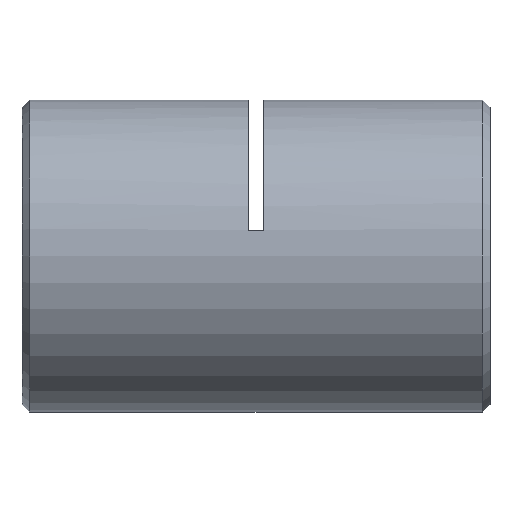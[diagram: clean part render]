
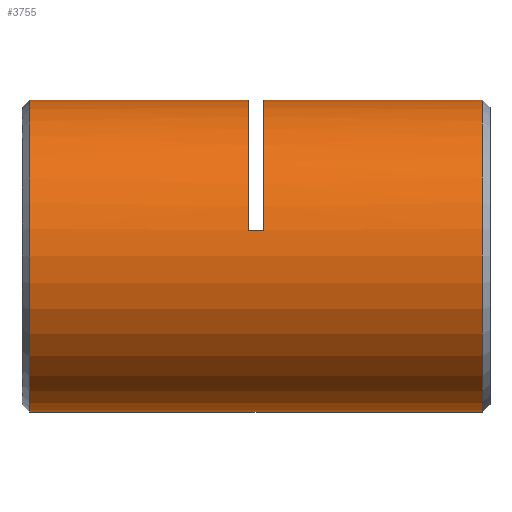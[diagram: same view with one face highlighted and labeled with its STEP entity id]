
A CAD part, left-side view. The second image highlights one B-rep face of the part: STEP entity #3755.
In plain terms, the highlighted cylindrical face has radius 10 mm (diameter 20 mm), a partial arc.
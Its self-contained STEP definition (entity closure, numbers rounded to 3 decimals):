
#44 = CARTESIAN_POINT ( 'NONE',  ( 0., 0.75, -10. ) ) ;
#74 = ORIENTED_EDGE ( 'NONE', *, *, #5062, .T. ) ;
#80 = DIRECTION ( 'NONE',  ( 0., 1., 0. ) ) ;
#380 = EDGE_CURVE ( 'NONE', #3187, #1616, #3273, .T. ) ;
#385 = FACE_OUTER_BOUND ( 'NONE', #4592, .T. ) ;
#482 = ORIENTED_EDGE ( 'NONE', *, *, #5136, .T. ) ;
#484 = VERTEX_POINT ( 'NONE', #3466 ) ;
#775 = DIRECTION ( 'NONE',  ( 0., -1., 0. ) ) ;
#780 = CARTESIAN_POINT ( 'NONE',  ( -9.86, 15.25, 1.667 ) ) ;
#809 = VECTOR ( 'NONE', #1164, 1000. ) ;
#882 = AXIS2_PLACEMENT_3D ( 'NONE', #2477, #775, #1184 ) ;
#886 = VERTEX_POINT ( 'NONE', #3589 ) ;
#1079 = CARTESIAN_POINT ( 'NONE',  ( 0., 0., 0. ) ) ;
#1160 = CIRCLE ( 'NONE', #1992, 10. ) ;
#1164 = DIRECTION ( 'NONE',  ( 0., 1., 0. ) ) ;
#1184 = DIRECTION ( 'NONE',  ( 0., 0., -1. ) ) ;
#1419 = AXIS2_PLACEMENT_3D ( 'NONE', #1908, #2829, #3672 ) ;
#1527 = CARTESIAN_POINT ( 'NONE',  ( 0., 15.75, 0. ) ) ;
#1616 = VERTEX_POINT ( 'NONE', #3454 ) ;
#1628 = VECTOR ( 'NONE', #80, 1000. ) ;
#1816 = ORIENTED_EDGE ( 'NONE', *, *, #380, .T. ) ;
#1875 = CARTESIAN_POINT ( 'NONE',  ( 0., 29.75, -10. ) ) ;
#1908 = CARTESIAN_POINT ( 'NONE',  ( 0., 14.75, 0. ) ) ;
#1978 = DIRECTION ( 'NONE',  ( 0., 0., 1. ) ) ;
#1992 = AXIS2_PLACEMENT_3D ( 'NONE', #4118, #3647, #3628 ) ;
#2049 = LINE ( 'NONE', #3722, #5571 ) ;
#2177 = VERTEX_POINT ( 'NONE', #44 ) ;
#2320 = CIRCLE ( 'NONE', #1419, 10. ) ;
#2340 = DIRECTION ( 'NONE',  ( 0., 1., 0. ) ) ;
#2469 = DIRECTION ( 'NONE',  ( 0., 1., 0. ) ) ;
#2477 = CARTESIAN_POINT ( 'NONE',  ( 0., 29.75, 0. ) ) ;
#2598 = VERTEX_POINT ( 'NONE', #1875 ) ;
#2688 = CARTESIAN_POINT ( 'NONE',  ( 0., 0., 10. ) ) ;
#2829 = DIRECTION ( 'NONE',  ( 0., 1., 0. ) ) ;
#2877 = DIRECTION ( 'NONE',  ( 0., 1., 0. ) ) ;
#3055 = VERTEX_POINT ( 'NONE', #4188 ) ;
#3161 = LINE ( 'NONE', #3861, #809 ) ;
#3185 = VERTEX_POINT ( 'NONE', #5789 ) ;
#3187 = VERTEX_POINT ( 'NONE', #4838 ) ;
#3273 = CIRCLE ( 'NONE', #4523, 10. ) ;
#3389 = CIRCLE ( 'NONE', #882, 10. ) ;
#3454 = CARTESIAN_POINT ( 'NONE',  ( 0., 15.75, 10. ) ) ;
#3466 = CARTESIAN_POINT ( 'NONE',  ( 0., 0.75, 10. ) ) ;
#3479 = ORIENTED_EDGE ( 'NONE', *, *, #5837, .T. ) ;
#3488 = ORIENTED_EDGE ( 'NONE', *, *, #4653, .F. ) ;
#3589 = CARTESIAN_POINT ( 'NONE',  ( 0., 14.75, 10. ) ) ;
#3628 = DIRECTION ( 'NONE',  ( 0., 0., 1. ) ) ;
#3647 = DIRECTION ( 'NONE',  ( 0., 1., 0. ) ) ;
#3671 = CYLINDRICAL_SURFACE ( 'NONE', #3770, 10. ) ;
#3672 = DIRECTION ( 'NONE',  ( 0., 0., 1. ) ) ;
#3718 = EDGE_CURVE ( 'NONE', #1616, #3185, #2049, .T. ) ;
#3722 = CARTESIAN_POINT ( 'NONE',  ( 0., 0., 10. ) ) ;
#3755 = ADVANCED_FACE ( 'NONE', ( #385 ), #3671, .T. ) ;
#3770 = AXIS2_PLACEMENT_3D ( 'NONE', #1079, #2469, #1978 ) ;
#3861 = CARTESIAN_POINT ( 'NONE',  ( 0., 0., -10. ) ) ;
#3918 = DIRECTION ( 'NONE',  ( 0., 1., 0. ) ) ;
#4118 = CARTESIAN_POINT ( 'NONE',  ( 0., 0.75, 0. ) ) ;
#4188 = CARTESIAN_POINT ( 'NONE',  ( -9.86, 14.75, 1.667 ) ) ;
#4225 = VECTOR ( 'NONE', #3918, 1000. ) ;
#4343 = DIRECTION ( 'NONE',  ( 0., 0., 1. ) ) ;
#4365 = ORIENTED_EDGE ( 'NONE', *, *, #3718, .T. ) ;
#4395 = LINE ( 'NONE', #2688, #1628 ) ;
#4523 = AXIS2_PLACEMENT_3D ( 'NONE', #1527, #2877, #4343 ) ;
#4592 = EDGE_LOOP ( 'NONE', ( #5808, #74, #482, #3488, #3479, #1816, #4365, #5164 ) ) ;
#4645 = LINE ( 'NONE', #780, #4225 ) ;
#4653 = EDGE_CURVE ( 'NONE', #3055, #886, #2320, .T. ) ;
#4838 = CARTESIAN_POINT ( 'NONE',  ( -9.86, 15.75, 1.667 ) ) ;
#5062 = EDGE_CURVE ( 'NONE', #2177, #484, #1160, .T. ) ;
#5136 = EDGE_CURVE ( 'NONE', #484, #886, #4395, .T. ) ;
#5164 = ORIENTED_EDGE ( 'NONE', *, *, #5456, .T. ) ;
#5431 = EDGE_CURVE ( 'NONE', #2177, #2598, #3161, .T. ) ;
#5456 = EDGE_CURVE ( 'NONE', #3185, #2598, #3389, .T. ) ;
#5571 = VECTOR ( 'NONE', #2340, 1000. ) ;
#5789 = CARTESIAN_POINT ( 'NONE',  ( 0., 29.75, 10. ) ) ;
#5808 = ORIENTED_EDGE ( 'NONE', *, *, #5431, .F. ) ;
#5837 = EDGE_CURVE ( 'NONE', #3055, #3187, #4645, .T. ) ;
